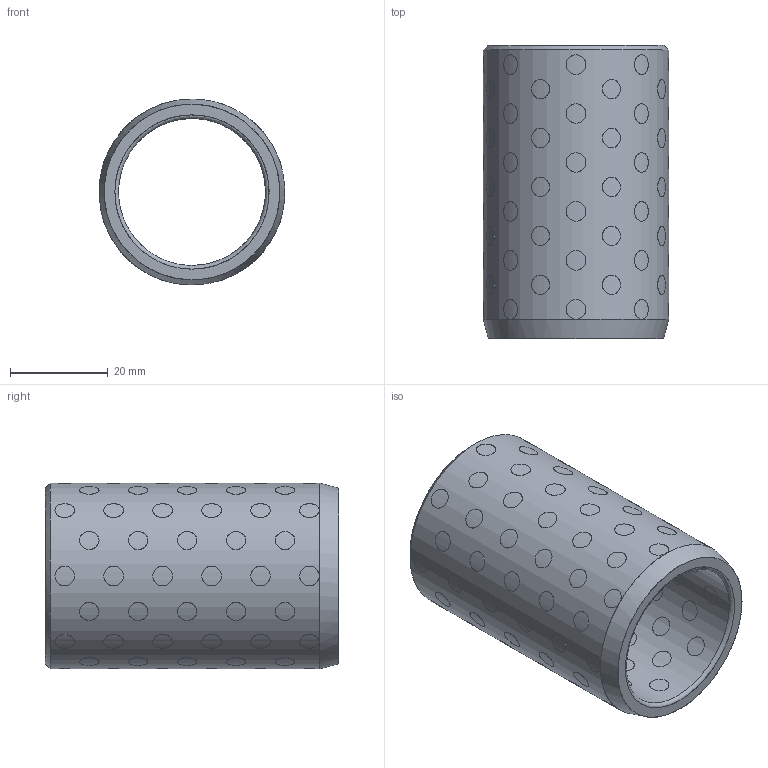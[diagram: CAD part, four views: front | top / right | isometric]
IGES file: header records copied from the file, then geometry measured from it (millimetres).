
Start section: Missler Software BP 521, 31674 Labege Cedex, France Tel   : +33 (0)5 61 00 03 00 Fax   : +33 (0)5 61 00 03 03 Email : sup.topsolid@topsolid.com
Global section: file name: D:\Cuma\18 03 2010\D30.04-2\D30.04_306038.igs; native system: TopSolid v605250 Missler Software; preprocessor: IGES preprocessor v100000; date: 030126.005543; units: millimetre
Bounding box: 38 x 60 x 38 mm (x, y, z)
Surface area: 20713.4 mm2 (no closed solid volume)
Topology: 0 solids, 0 shells, 296 faces, 6101 edges, 5904 vertices
Faces by surface type: bspline 296
